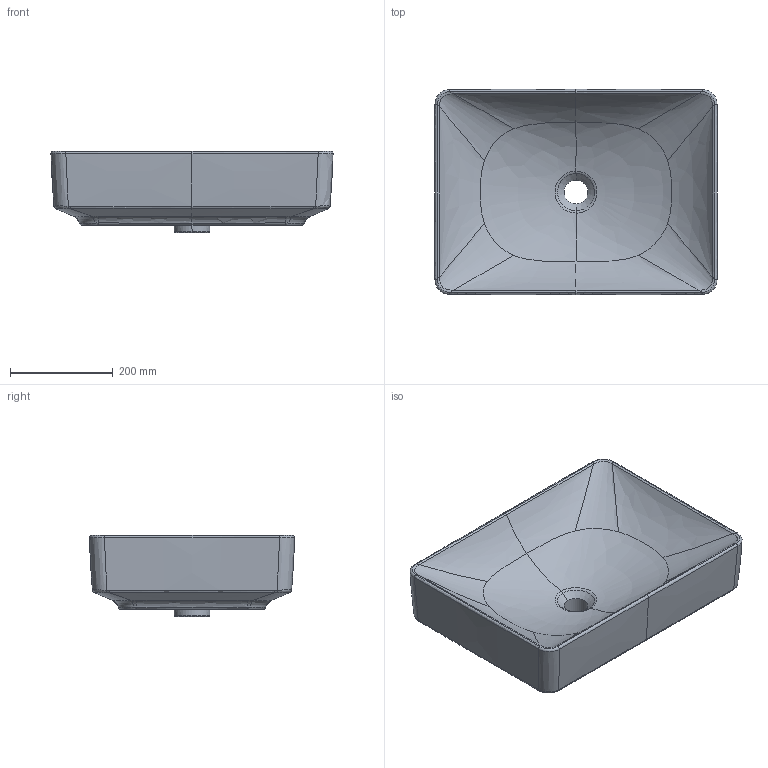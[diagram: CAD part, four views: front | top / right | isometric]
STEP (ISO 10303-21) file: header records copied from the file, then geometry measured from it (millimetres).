
FILE_DESCRIPTION(/* description */ (''),/* implementation_level */ '2;1');
FILE_NAME(/* name */ 'C:\Planerdaten\Export PLA\500.779.01.1\stp\500779.stp',/* time_stamp */ '2020-02-27T11:13:04+01:00',/* author */ ('JANAN'),/* organization */ (''),/* preprocessor_version */ 'ST-DEVELOPER v16.13',/* originating_system */ 'Autodesk Inventor 2018',/* authorisation */ '');
FILE_SCHEMA (('AUTOMOTIVE_DESIGN { 1 0 10303 214 3 1 1 }'));
Length unit declared in the file: millimetre
Products named in the file (1): AWT Ge+VaF r-e B55 o/ ÜLF
Bounding box: 549.98 x 400 x 158.24 mm (x, y, z)
Volume: 16502544.1 mm3; surface area: 692311.7 mm2
Topology: 1 solids, 1 shells, 117 faces, 266 edges, 153 vertices
Faces by surface type: bspline 92, cone 10, torus 7, plane 4, cylinder 4
Full cylindrical faces by diameter (mm): 46.229 x1
Entity records: 20656 total; most frequent: CARTESIAN_POINT 18306, ORIENTED_EDGE 502, DIRECTION 363, EDGE_CURVE 251, AXIS2_PLACEMENT_3D 173, CIRCLE 147, VERTEX_POINT 146, EDGE_LOOP 129
